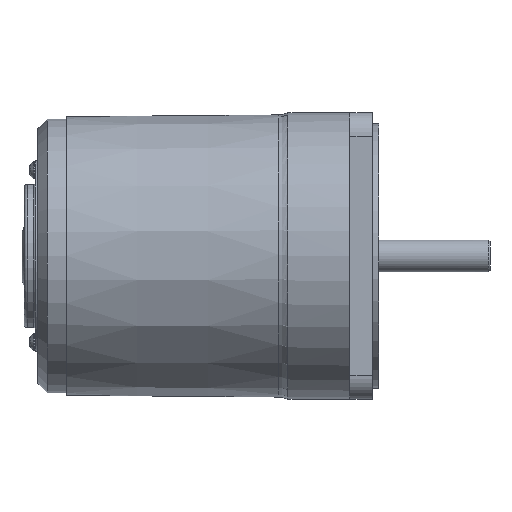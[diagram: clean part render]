
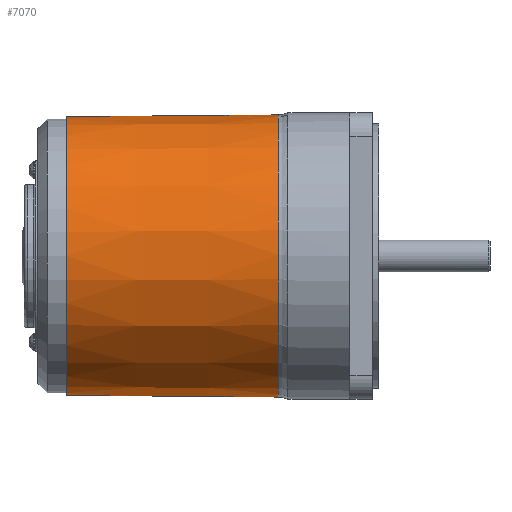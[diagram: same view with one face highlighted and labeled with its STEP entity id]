
A CAD part, top view. The second image highlights one B-rep face of the part: STEP entity #7070.
In plain terms, the highlighted conical face has half-angle 0.48 degrees and reference radius 44.029 mm.
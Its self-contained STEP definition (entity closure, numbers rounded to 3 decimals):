
#14=CONICAL_SURFACE('',#7564,44.029,0.48);
#88=FACE_BOUND('',#947,.T.);
#501=FACE_OUTER_BOUND('',#946,.T.);
#946=EDGE_LOOP('',(#4901,#4902,#4903,#4904,#4905,#4906));
#947=EDGE_LOOP('',(#4907));
#1379=B_SPLINE_CURVE_WITH_KNOTS('',3,(#11485,#11486,#11487,#11488),
 .UNSPECIFIED.,.F.,.F.,(4,4),(3.648,3.698),
 .UNSPECIFIED.);
#1380=B_SPLINE_CURVE_WITH_KNOTS('',3,(#11489,#11490,#11491,#11492),
 .UNSPECIFIED.,.F.,.F.,(4,4),(-6.954,-3.698),
 .UNSPECIFIED.);
#1381=B_SPLINE_CURVE_WITH_KNOTS('',3,(#11494,#11495,#11496,#11497),
 .UNSPECIFIED.,.F.,.F.,(4,4),(-3.256,0.),.UNSPECIFIED.);
#1382=B_SPLINE_CURVE_WITH_KNOTS('',3,(#11499,#11500,#11501,#11502),
 .UNSPECIFIED.,.F.,.F.,(4,4),(3.256,3.306),
 .UNSPECIFIED.);
#1517=CIRCLE('',#7547,43.75);
#1527=CIRCLE('',#7563,44.308);
#1528=CIRCLE('',#7565,44.031);
#2924=VERTEX_POINT('',#11361);
#2935=VERTEX_POINT('',#11422);
#2947=VERTEX_POINT('',#11475);
#2948=VERTEX_POINT('',#11483);
#2949=VERTEX_POINT('',#11484);
#2950=VERTEX_POINT('',#11493);
#2951=VERTEX_POINT('',#11498);
#3657=EDGE_CURVE('',#2924,#2924,#1517,.T.);
#3683=EDGE_CURVE('',#2935,#2947,#1527,.T.);
#3684=EDGE_CURVE('',#2948,#2949,#1379,.T.);
#3685=EDGE_CURVE('',#2947,#2949,#1380,.T.);
#3686=EDGE_CURVE('',#2950,#2935,#1381,.T.);
#3687=EDGE_CURVE('',#2950,#2951,#1382,.T.);
#3688=EDGE_CURVE('',#2948,#2951,#1528,.T.);
#4901=ORIENTED_EDGE('',*,*,#3684,.T.);
#4902=ORIENTED_EDGE('',*,*,#3685,.F.);
#4903=ORIENTED_EDGE('',*,*,#3683,.F.);
#4904=ORIENTED_EDGE('',*,*,#3686,.F.);
#4905=ORIENTED_EDGE('',*,*,#3687,.T.);
#4906=ORIENTED_EDGE('',*,*,#3688,.F.);
#4907=ORIENTED_EDGE('',*,*,#3657,.T.);
#7070=ADVANCED_FACE('',(#501,#88),#14,.T.);
#7547=AXIS2_PLACEMENT_3D('',#11362,#8497,#8498);
#7563=AXIS2_PLACEMENT_3D('',#11481,#8536,#8537);
#7564=AXIS2_PLACEMENT_3D('',#11482,#8538,#8539);
#7565=AXIS2_PLACEMENT_3D('',#11503,#8540,#8541);
#8497=DIRECTION('center_axis',(1.,0.,0.));
#8498=DIRECTION('ref_axis',(0.,1.,0.));
#8536=DIRECTION('center_axis',(1.,0.,0.));
#8537=DIRECTION('ref_axis',(0.,1.,0.));
#8538=DIRECTION('center_axis',(1.,0.,0.));
#8539=DIRECTION('ref_axis',(0.,1.,0.));
#8540=DIRECTION('center_axis',(1.,0.,0.));
#8541=DIRECTION('ref_axis',(0.,0.,-1.));
#11361=CARTESIAN_POINT('',(9.,43.75,0.));
#11362=CARTESIAN_POINT('Origin',(9.,0.,
0.));
#11422=CARTESIAN_POINT('',(75.559,29.222,-33.306));
#11475=CARTESIAN_POINT('',(75.559,-29.222,-33.306));
#11481=CARTESIAN_POINT('Origin',(75.559,0.,
0.));
#11482=CARTESIAN_POINT('Origin',(42.279,0.,
0.));
#11483=CARTESIAN_POINT('',(42.504,-29.21,-32.947));
#11484=CARTESIAN_POINT('',(43.,-29.21,-32.952));
#11485=CARTESIAN_POINT('Ctrl Pts',(42.504,-29.21,-32.947));
#11486=CARTESIAN_POINT('Ctrl Pts',(42.669,-29.21,-32.949));
#11487=CARTESIAN_POINT('Ctrl Pts',(42.835,-29.21,-32.95));
#11488=CARTESIAN_POINT('Ctrl Pts',(43.,-29.21,-32.952));
#11489=CARTESIAN_POINT('Ctrl Pts',(75.559,-29.222,-33.306));
#11490=CARTESIAN_POINT('Ctrl Pts',(64.706,-29.218,-33.188));
#11491=CARTESIAN_POINT('Ctrl Pts',(53.853,-29.214,-33.07));
#11492=CARTESIAN_POINT('Ctrl Pts',(43.,-29.21,-32.952));
#11493=CARTESIAN_POINT('',(43.,29.21,-32.952));
#11494=CARTESIAN_POINT('Ctrl Pts',(43.,29.21,-32.952));
#11495=CARTESIAN_POINT('Ctrl Pts',(53.853,29.214,-33.07));
#11496=CARTESIAN_POINT('Ctrl Pts',(64.706,29.218,-33.188));
#11497=CARTESIAN_POINT('Ctrl Pts',(75.559,29.222,-33.306));
#11498=CARTESIAN_POINT('',(42.504,29.21,-32.947));
#11499=CARTESIAN_POINT('Ctrl Pts',(43.,29.21,-32.952));
#11500=CARTESIAN_POINT('Ctrl Pts',(42.835,29.21,-32.95));
#11501=CARTESIAN_POINT('Ctrl Pts',(42.669,29.21,-32.949));
#11502=CARTESIAN_POINT('Ctrl Pts',(42.504,29.21,-32.947));
#11503=CARTESIAN_POINT('Origin',(42.504,0.,
0.));
